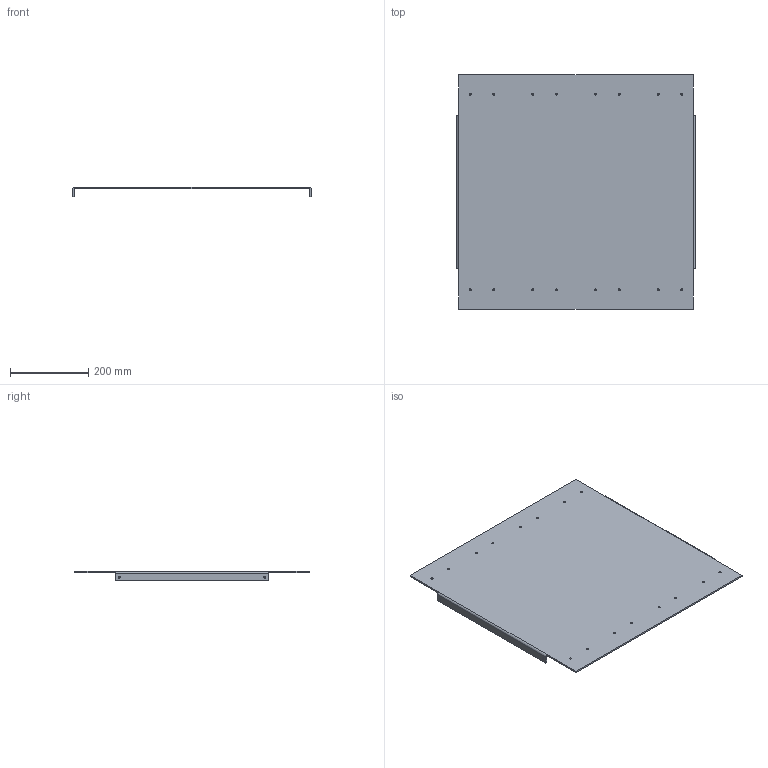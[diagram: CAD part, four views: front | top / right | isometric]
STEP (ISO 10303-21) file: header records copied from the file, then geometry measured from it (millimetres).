
FILE_DESCRIPTION(('HOOPS Exchange Step'),'2;1');
FILE_NAME('/private/var/mobile/Containers/Data/Application/E4481369-A8C6-45C6-A958-B1853E49479D/tmp/export/temp_export','2021-04-12T20:59:52+00:00',('mobile'),('Shapr3D Limited'),'HOOPS Exchange 2020.2','Shapr3D','Authorized');
FILE_SCHEMA( ('AP203_CONFIGURATION_CONTROLLED_3D_DESIGN_OF_MECHANICAL_PARTS_AND_ASSEMBLIES_MIM_LF') );
Length unit declared in the file: millimetre
Products named in the file (2): 0; /private/var/mobile/Containers/Data/Application/E4481369-A8C6-45C6-A958-B1853E49479D/tmp/A4772EE8-004F-4D49-8776-BDBA564E398B.tmp
Assembly tree (1 placements, depth 2):
  /private/var/mobile/Containers/Data/Application/E4481369-A8C6-45C6-A958-B1853E49479D/tmp/A4772EE8-004F-4D49-8776-BDBA564E398B.tmp
    0
Bounding box: 610 x 600 x 24 mm (x, y, z)
Volume: 1512656.2 mm3; surface area: 767600.7 mm2
Topology: 1 solids, 1 shells, 50 faces, 160 edges, 112 vertices
Faces by surface type: cylinder 32, plane 18
Full cylindrical faces by diameter (mm): 5.2 x20
Entity records: 1967 total; most frequent: DIRECTION 354, CARTESIAN_POINT 325, ORIENTED_EDGE 320, EDGE_CURVE 160, AXIS2_PLACEMENT_3D 141, VERTEX_POINT 112, EDGE_LOOP 90, FACE_BOUND 90
